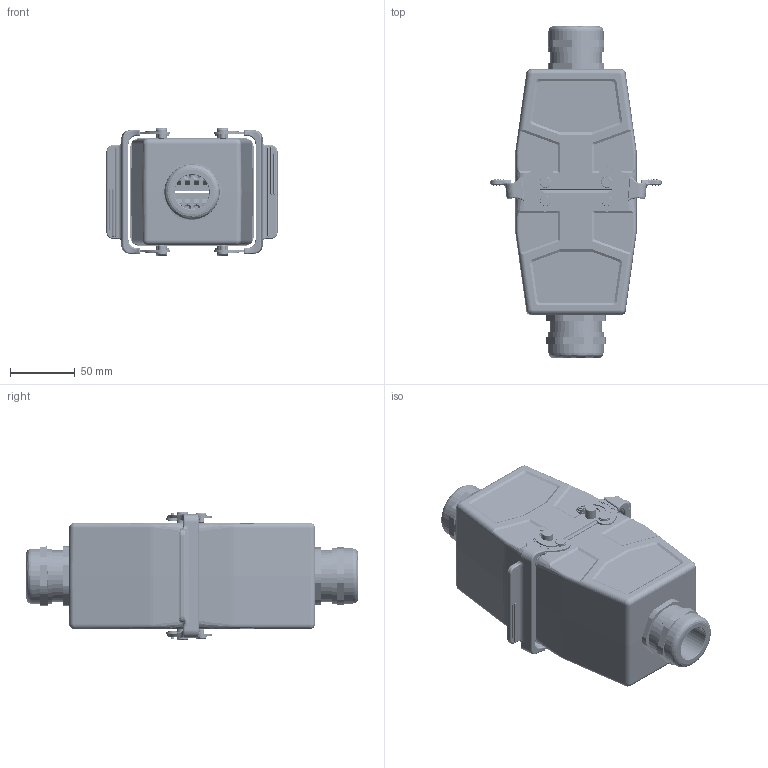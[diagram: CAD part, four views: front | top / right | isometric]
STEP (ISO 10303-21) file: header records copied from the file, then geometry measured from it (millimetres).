
FILE_DESCRIPTION (( 'STEP AP214' ), '1' );
FILE_NAME ('09132109232M HESH、32针、对接底座、顶出M32套件、配金属接头.STEP', '2024-04-29T06:59:50', ( 'L' ), ( '' ), 'SwSTEP 2.0', 'SolidWorks 2019', '' );
FILE_SCHEMA (( 'AUTOMOTIVE_DESIGN' ));
Length unit declared in the file: millimetre
Products named in the file (8): HESH-016-FD.stp; H32B-TBF-M32.step; HESH-016-F.stp; 09132109232M HESH、32针、对接底座、顶出M32套件、配金属接头; HESH-016-MD.stp; FAS-32-M.step; HESH-016-M.stp; H32B-TG-M32.step
Assembly tree (8 placements, depth 2):
  09132109232M HESH、32针、对接底座、顶出M32套件、配金属接头
    HESH-016-M.stp
    HESH-016-F.stp
    HESH-016-MD.stp
    HESH-016-FD.stp
    H32B-TG-M32.step
    FAS-32-M.step  x2
    H32B-TBF-M32.step
Bounding box: 132.45 x 256.95 x 98.5 mm (x, y, z)
Volume: 613175.4 mm3; surface area: 284170.7 mm2
Topology: 8 solids, 9 shells, 7032 faces, 18739 edges, 12008 vertices
Faces by surface type: plane 3813, cylinder 1706, cone 752, bspline 454, torus 169, sphere 138
Entity records: 275918 total; most frequent: CARTESIAN_POINT 85218, ORIENTED_EDGE 36682, DIRECTION 31677, EDGE_CURVE 18341, VERTEX_POINT 11914, VECTOR 10893, LINE 10893, AXIS2_PLACEMENT_3D 10392
